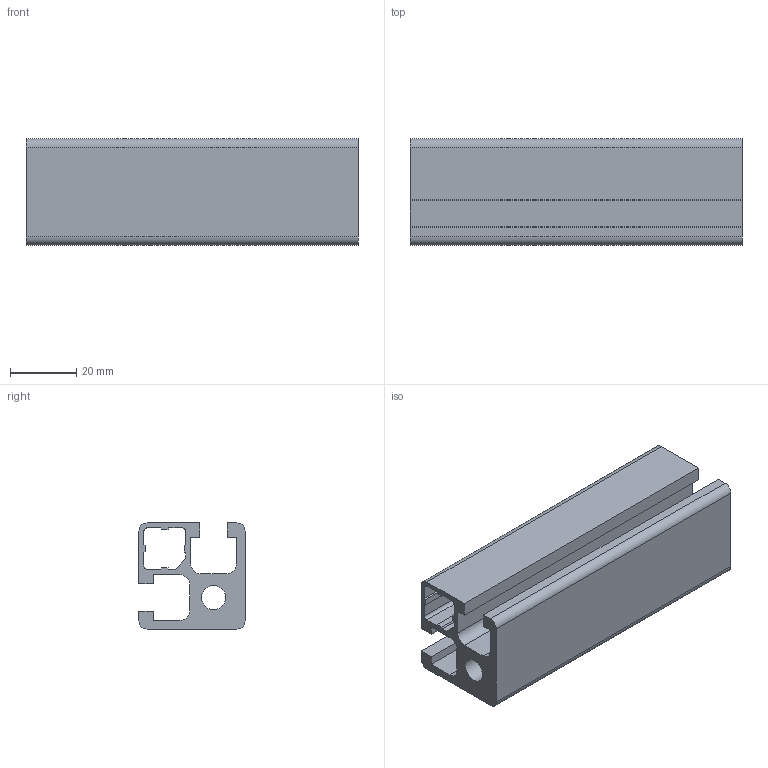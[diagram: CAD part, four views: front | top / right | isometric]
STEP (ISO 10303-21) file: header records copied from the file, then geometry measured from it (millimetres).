
FILE_DESCRIPTION(/* description */ ('STEP AP203'),/* implementation_level */ '2;1');
FILE_NAME(/* name */ 'C:\Users\Stefan.Nesic\Desktop\01010STEP\000Verifica\CORRETTI\PS3232.stp',/* time_stamp */ '2022-07-12T12:20:31+02:00',/* author */ (''),/* organization */ (''),/* preprocessor_version */ 'ST-DEVELOPER v18.1',/* originating_system */ 'Autodesk Inventor 2021',/* authorisation */ '');
FILE_SCHEMA (('AUTOMOTIVE_DESIGN { 1 0 10303 214 3 1 1 }'));
Length unit declared in the file: millimetre
Products named in the file (1): PS3232
Bounding box: 100 x 32 x 32 mm (x, y, z)
Volume: 46219.2 mm3; surface area: 28364.8 mm2
Topology: 1 solids, 1 shells, 55 faces, 159 edges, 106 vertices
Faces by surface type: plane 43, cylinder 12
Full cylindrical faces by diameter (mm): 7.3 x1
Entity records: 1846 total; most frequent: CARTESIAN_POINT 321, ORIENTED_EDGE 318, DIRECTION 295, EDGE_CURVE 159, LINE 135, VECTOR 135, VERTEX_POINT 106, AXIS2_PLACEMENT_3D 80
